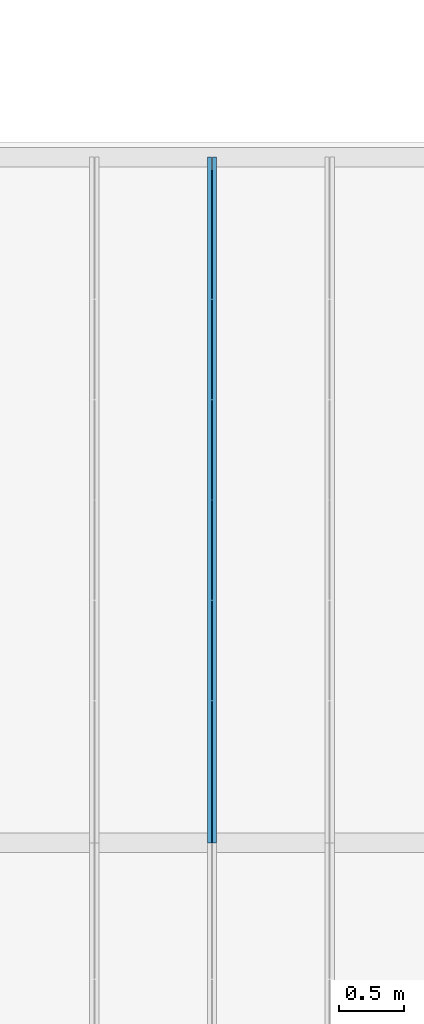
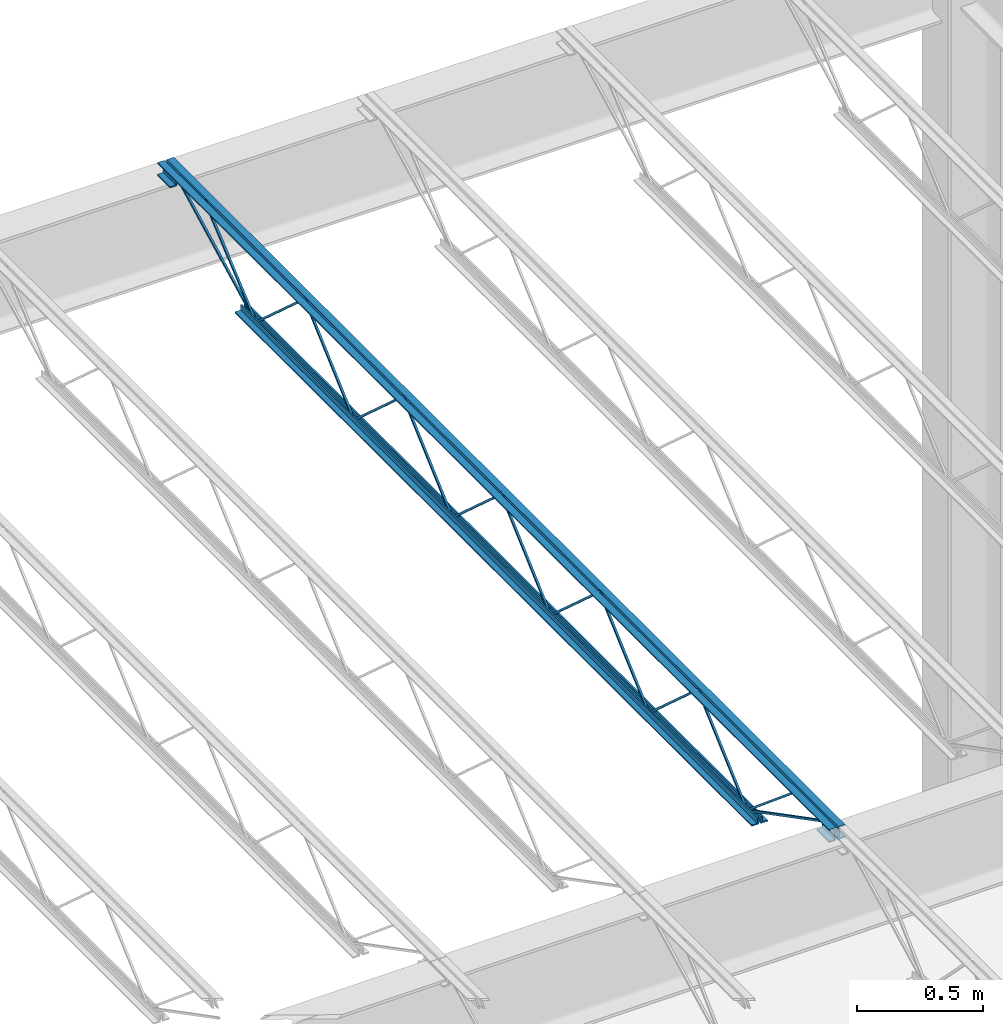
# One storey, part 116 of 119: 1 beam.
"""IFC2X3 building model written with IfcOpenShell, lengths in metres."""

from ifc_helpers import new_model, entity, si_unit, converted_unit, frame, origin, place, context, project, spatial, face_set, surface_model, element, save


model = new_model("IFC2X3")

# Units and contexts
model_context = context("Model", 3, precision=1e-09, world=origin())
plan_context = context("Plan", 3, precision=1e-09, world=origin())
ifc_project = project(units=[si_unit("LENGTHUNIT", "METRE"), si_unit("AREAUNIT", "SQUARE_METRE"), si_unit("VOLUMEUNIT", "CUBIC_METRE"), converted_unit("PLANEANGLEUNIT", "DEGREE", entity("IfcRatioMeasure", 0.01745329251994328), si_unit("PLANEANGLEUNIT", "RADIAN"), dimensions=[0, 0, 0, 0, 0, 0, 0]), si_unit("TIMEUNIT", "SECOND")], contexts=[model_context, plan_context])

# Site, building, storey
site_placement = place(None, origin())
site = spatial("IfcSite", under=ifc_project, at=site_placement, Name="Default", CompositionType="ELEMENT")
building_placement = place(site_placement, origin())
building = spatial("IfcBuilding", under=site, at=building_placement, CompositionType="ELEMENT")
storey_placement = place(building_placement, frame((0.0, 0.0, 4.570000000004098)))
storey = spatial("IfcBuildingStorey", under=building, at=storey_placement, Name="Second Floor", CompositionType="ELEMENT", Elevation=4.570000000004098)

# Beam
beam_placement = place(storey_placement, frame((-3.676750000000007, 44.77999999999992, 4.323999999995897)))
element("IfcBeam", 1, at=beam_placement, inside=storey, Name="M_K-Series Bar Joist-Rod Web:14K1:14K1", ObjectType="M_K-Series Bar Joist-Rod Web:14K1", context=model_context, shape_type="SurfaceModel", body=[
    surface_model("IfcFaceBasedSurfaceModel", [(0.0415000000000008, 3.043599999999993, 0.01110000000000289), (0.03200000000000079, 3.043599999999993, 0.01110000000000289), (0.03200000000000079, 3.043599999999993, 0.001600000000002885), (0.0415000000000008, 3.043599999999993, 0.001600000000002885), (0.03200000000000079, 3.044955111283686, 0.01110000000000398), (0.04150000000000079, 3.044955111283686, 0.01110000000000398), (0.03200000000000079, 3.048594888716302, 0.001600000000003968), (0.0320000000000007, 3.430844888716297, 0.3449000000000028), (0.0320000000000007, 3.433555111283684, 0.3449000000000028), (0.03200000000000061, 3.815805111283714, 0.001600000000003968), (0.03200000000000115, 3.820799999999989, 0.001600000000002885), (0.0320000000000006, 3.820799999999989, 0.01110000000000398), (0.03200000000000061, 3.819444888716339, 0.01110000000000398), (0.03200000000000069, 3.4371948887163, 0.3544000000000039), (0.03200000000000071, 3.427205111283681, 0.3544000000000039), (0.04150000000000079, 3.048594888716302, 0.001600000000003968), (0.04150000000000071, 3.430844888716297, 0.3449000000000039), (0.0415000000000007, 3.433555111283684, 0.3449000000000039), (0.04150000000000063, 3.815805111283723, 0.001600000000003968), (0.04150000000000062, 3.820799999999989, 0.001600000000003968), (0.04150000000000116, 3.820799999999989, 0.01110000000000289), (0.04150000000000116, 3.819444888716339, 0.01110000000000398), (0.0415000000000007, 3.4371948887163, 0.3544000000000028), (0.04150000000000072, 3.427205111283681, 0.3544000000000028), (0.04150000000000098, 2.266399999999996, 0.01110000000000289), (0.03200000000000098, 2.266399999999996, 0.01110000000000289), (0.03200000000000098, 2.266399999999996, 0.001600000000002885), (0.04150000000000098, 2.266399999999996, 0.001600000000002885), (0.03200000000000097, 2.267755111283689, 0.01110000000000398), (0.04150000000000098, 2.267755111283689, 0.01110000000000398), (0.03200000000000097, 2.271394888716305, 0.001600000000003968), (0.03200000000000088, 2.653644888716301, 0.3449000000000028), (0.03200000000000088, 2.656355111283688, 0.3449000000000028), (0.0320000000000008, 3.038605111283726, 0.001600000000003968), (0.03200000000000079, 3.043599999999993, 0.01110000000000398), (0.0320000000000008, 3.042244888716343, 0.01110000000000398), (0.03200000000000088, 2.659994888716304, 0.3544000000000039), (0.0320000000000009, 2.650005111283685, 0.3544000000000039), (0.04150000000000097, 2.271394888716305, 0.001600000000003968), (0.0415000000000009, 2.653644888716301, 0.3449000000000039), (0.04150000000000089, 2.656355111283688, 0.3449000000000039), (0.0415000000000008, 3.038605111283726, 0.001600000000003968), (0.0415000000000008, 3.043599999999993, 0.001600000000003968), (0.0415000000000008, 3.042244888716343, 0.01110000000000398), (0.04150000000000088, 2.659994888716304, 0.3544000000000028), (0.0415000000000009, 2.650005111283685, 0.3544000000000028), (0.04150000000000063, 1.489199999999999, 0.01110000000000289), (0.03200000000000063, 1.489199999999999, 0.01110000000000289), (0.03200000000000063, 1.489199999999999, 0.001600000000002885), (0.04150000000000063, 1.489199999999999, 0.001600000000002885), (0.03200000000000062, 1.490555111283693, 0.01110000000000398), (0.04150000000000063, 1.490555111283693, 0.01110000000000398), (0.03200000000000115, 1.494194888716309, 0.001600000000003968), (0.03200000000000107, 1.876444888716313, 0.3449000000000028), (0.03200000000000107, 1.879155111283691, 0.3449000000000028), (0.03200000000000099, 2.26140511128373, 0.001600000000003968), (0.03200000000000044, 2.266399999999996, 0.01110000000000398), (0.03200000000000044, 2.265044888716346, 0.01110000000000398), (0.03200000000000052, 1.882794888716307, 0.3544000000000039), (0.03200000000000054, 1.872805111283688, 0.3544000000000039), (0.04150000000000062, 1.494194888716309, 0.001600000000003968), (0.04150000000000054, 1.876444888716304, 0.3449000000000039), (0.04150000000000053, 1.879155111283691, 0.3449000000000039), (0.04150000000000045, 2.26140511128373, 0.001600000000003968), (0.04150000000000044, 2.266399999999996, 0.001600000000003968), (0.04150000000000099, 2.265044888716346, 0.01110000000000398), (0.04150000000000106, 1.882794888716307, 0.3544000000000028), (0.04150000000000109, 1.872805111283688, 0.3544000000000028), (0.04149999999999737, 3.82079999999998, 0.01109999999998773), (0.03199999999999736, 3.82079999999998, 0.01109999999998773), (0.03199999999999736, 3.82079999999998, 0.001599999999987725), (0.04149999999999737, 3.82079999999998, 0.001599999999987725), (0.03199999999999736, 3.822155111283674, 0.01109999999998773), (0.04149999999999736, 3.822155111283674, 0.01109999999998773), (0.03199999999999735, 3.82579488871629, 0.001599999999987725), (0.03199999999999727, 4.208044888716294, 0.3448999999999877), (0.03199999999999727, 4.210755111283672, 0.3448999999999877), (0.03199999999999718, 4.593005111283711, 0.001599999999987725), (0.03199999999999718, 4.597999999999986, 0.001599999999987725), (0.03199999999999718, 4.597999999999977, 0.01109999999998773), (0.03199999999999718, 4.596644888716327, 0.01109999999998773), (0.03199999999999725, 4.214394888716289, 0.3543999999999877), (0.03199999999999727, 4.204405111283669, 0.3543999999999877), (0.04149999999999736, 3.82579488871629, 0.001599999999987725), (0.04149999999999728, 4.208044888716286, 0.3448999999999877), (0.04149999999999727, 4.210755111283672, 0.3448999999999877), (0.04149999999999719, 4.593005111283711, 0.001599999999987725), (0.04149999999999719, 4.597999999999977, 0.001599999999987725), (0.04149999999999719, 4.597999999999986, 0.01109999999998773), (0.04149999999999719, 4.596644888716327, 0.01109999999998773), (0.04149999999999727, 4.214394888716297, 0.3543999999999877), (0.04149999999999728, 4.204405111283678, 0.3543999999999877), (0.04150000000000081, 0.7120000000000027, 0.01110000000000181), (0.03200000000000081, 0.7120000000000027, 0.01110000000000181), (0.03200000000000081, 0.7120000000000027, 0.001600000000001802), (0.04150000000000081, 0.7120000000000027, 0.001600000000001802), (0.03200000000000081, 0.7133551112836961, 0.01110000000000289), (0.04150000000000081, 0.7133551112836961, 0.01110000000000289), (0.0320000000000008, 0.7169948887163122, 0.001600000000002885), (0.03200000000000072, 1.099244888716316, 0.3449000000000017), (0.03200000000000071, 1.101955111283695, 0.3449000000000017), (0.03200000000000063, 1.484205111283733, 0.001600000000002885), (0.03200000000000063, 1.489200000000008, 0.001600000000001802), (0.03200000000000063, 1.487844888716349, 0.01110000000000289), (0.03200000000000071, 1.105594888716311, 0.3544000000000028), (0.03200000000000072, 1.095605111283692, 0.3544000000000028), (0.0415000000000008, 0.7169948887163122, 0.001600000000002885), (0.04150000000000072, 1.099244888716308, 0.3449000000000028), (0.04150000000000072, 1.101955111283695, 0.3449000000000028), (0.04150000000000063, 1.484205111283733, 0.001600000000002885), (0.04150000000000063, 1.489200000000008, 0.01110000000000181), (0.04150000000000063, 1.487844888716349, 0.01110000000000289), (0.04150000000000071, 1.105594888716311, 0.3544000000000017), (0.04150000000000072, 1.0956051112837, 0.3544000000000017), (0.03200000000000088, 5.310000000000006, 0.3559999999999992), (0.0, 5.310000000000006, 0.3559999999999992), (0.0, 5.310000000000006, 0.3494999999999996), (0.02550000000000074, 5.310000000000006, 0.3494999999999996), (0.02550000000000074, 5.310000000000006, 0.3239999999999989), (0.03200000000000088, 5.310000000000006, 0.3239999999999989), (0.04150000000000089, 5.310000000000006, 0.3559999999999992), (0.04150000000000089, 5.310000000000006, 0.3239999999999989), (0.04800000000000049, 5.310000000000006, 0.3239999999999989), (0.04800000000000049, 5.310000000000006, 0.3494999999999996), (0.07350000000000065, 5.310000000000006, 0.3494999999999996), (0.07350000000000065, 5.310000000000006, 0.3559999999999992), (0.03200000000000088, 0.0, 0.3559999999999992), (0.0, 0.0, 0.3559999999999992), (0.0, 0.0, 0.3494999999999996), (0.02550000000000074, 0.0, 0.3494999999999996), (0.02550000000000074, 0.0, 0.3239999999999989), (0.03200000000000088, 0.0, 0.3239999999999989), (0.04150000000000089, 0.0, 0.3559999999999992), (0.04150000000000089, 0.0, 0.3239999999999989), (0.04800000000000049, 0.0, 0.3239999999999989), (0.04800000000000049, 0.0, 0.3494999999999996), (0.07350000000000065, 0.0, 0.3494999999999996), (0.07350000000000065, 0.0, 0.3559999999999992), (0.04150000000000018, 0.09999999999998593, 0.2924999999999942), (0.0735000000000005, 0.09999999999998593, 0.2924999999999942), (0.0735000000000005, 0.09999999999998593, 0.2989999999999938), (0.04800000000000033, 0.09999999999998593, 0.2989999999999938), (0.04800000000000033, 0.09999999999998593, 0.3239999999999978), (0.04150000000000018, 0.09999999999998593, 0.3239999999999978), (0.0, 0.09999999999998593, 0.2924999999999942), (0.03200000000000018, 0.09999999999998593, 0.2924999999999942), (0.03200000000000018, 0.09999999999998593, 0.3239999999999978), (0.02550000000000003, 0.09999999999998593, 0.3239999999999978), (0.02550000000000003, 0.09999999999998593, 0.2989999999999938), (0.0, 0.09999999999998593, 0.2989999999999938), (0.04150000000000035, 0.0, 0.2924999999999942), (0.07350000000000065, 0.0, 0.2924999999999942), (0.07350000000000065, 0.0, 0.2989999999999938), (0.04800000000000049, 0.0, 0.2989999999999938), (0.04800000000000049, 0.0, 0.3239999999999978), (0.04150000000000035, 0.0, 0.3239999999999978), (0.0, 0.0, 0.2924999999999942), (0.03200000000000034, 0.0, 0.2924999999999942), (0.03200000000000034, 0.0, 0.3239999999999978), (0.0255000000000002, 0.0, 0.3239999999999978), (0.0255000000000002, 0.0, 0.2989999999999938), (0.0, 0.0, 0.2989999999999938), (0.03200000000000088, 5.310000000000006, 0.2924999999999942), (0.03200000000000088, 5.310000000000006, 0.3239999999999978), (0.02550000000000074, 5.310000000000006, 0.3239999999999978), (0.02550000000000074, 5.310000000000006, 0.2989999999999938), (0.0, 5.310000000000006, 0.2989999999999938), (0.0, 5.310000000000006, 0.2924999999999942), (0.04150000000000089, 5.310000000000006, 0.2924999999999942), (0.07350000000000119, 5.310000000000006, 0.2924999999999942), (0.07350000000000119, 5.310000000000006, 0.2989999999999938), (0.04800000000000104, 5.310000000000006, 0.2989999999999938), (0.04800000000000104, 5.310000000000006, 0.3239999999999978), (0.04150000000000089, 5.310000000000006, 0.3239999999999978), (0.03200000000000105, 5.210000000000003, 0.2924999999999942), (0.03200000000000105, 5.210000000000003, 0.3239999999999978), (0.0255000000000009, 5.210000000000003, 0.3239999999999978), (0.0255000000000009, 5.210000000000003, 0.2989999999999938), (0.0, 5.210000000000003, 0.2989999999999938), (0.0, 5.210000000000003, 0.2924999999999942), (0.04150000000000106, 5.210000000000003, 0.2924999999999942), (0.07350000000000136, 5.210000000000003, 0.2924999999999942), (0.07350000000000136, 5.210000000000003, 0.2989999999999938), (0.0480000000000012, 5.210000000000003, 0.2989999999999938), (0.0480000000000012, 5.210000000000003, 0.3239999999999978), (0.04150000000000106, 5.210000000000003, 0.3239999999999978), (0.0320000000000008, 4.698000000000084, 0.0), (0.0320000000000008, 4.698000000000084, 0.03199999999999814), (0.02550000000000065, 4.698000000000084, 0.03199999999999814), (0.02550000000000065, 4.698000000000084, 0.006499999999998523), (0.0, 4.698000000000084, 0.006499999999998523), (0.0, 4.698000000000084, 0.0), (0.0415000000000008, 4.698000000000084, 0.0), (0.0735000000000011, 4.698000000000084, 0.0), (0.0735000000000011, 4.698000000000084, 0.006499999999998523), (0.04800000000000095, 4.698000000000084, 0.006499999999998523), (0.04800000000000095, 4.698000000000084, 0.03199999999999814), (0.0415000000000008, 4.698000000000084, 0.03199999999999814), (0.03200000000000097, 0.6120000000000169, 0.0), (0.03200000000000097, 0.6120000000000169, 0.03199999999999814), (0.02550000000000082, 0.6120000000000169, 0.03199999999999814), (0.02550000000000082, 0.6120000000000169, 0.006499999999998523), (0.0, 0.6120000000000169, 0.006499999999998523), (0.0, 0.6120000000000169, 0.0), (0.04150000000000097, 0.6120000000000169, 0.0), (0.07350000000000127, 0.6120000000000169, 0.0), (0.07350000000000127, 0.6120000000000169, 0.006499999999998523), (0.04800000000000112, 0.6120000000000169, 0.006499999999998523), (0.04800000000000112, 0.6120000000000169, 0.03199999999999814), (0.04150000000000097, 0.6120000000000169, 0.03199999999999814), (0.04150000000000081, 0.7141882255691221, 0.01056594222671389), (0.0320000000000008, 0.7141882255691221, 0.01056594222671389), (0.03200000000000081, 0.7098117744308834, 0.002134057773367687), (0.04150000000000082, 0.7098117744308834, 0.00213405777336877), (0.04150000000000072, 0.1011592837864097, 0.3287499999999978), (0.04150000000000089, 0.0, 0.3287499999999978), (0.04150000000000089, 0.0, 0.3192499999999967), (0.04150000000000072, 0.09884071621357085, 0.3192499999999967), (0.03200000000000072, 0.09884071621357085, 0.3192499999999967), (0.03200000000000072, 0.1011592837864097, 0.3287499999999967), (0.03200000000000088, 0.0, 0.3287499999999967), (0.03200000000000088, 0.0, 0.3192499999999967), (0.04150000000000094, 0.3034428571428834, 0.3417000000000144), (0.03200000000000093, 0.3034428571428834, 0.3417000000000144), (0.03200000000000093, 0.3034428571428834, 0.3322000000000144), (0.04150000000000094, 0.3034428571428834, 0.3322000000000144), (0.03200000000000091, 0.3178654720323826, 0.3417000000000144), (0.04150000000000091, 0.3178654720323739, 0.3417000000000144), (0.03200000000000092, 0.3144202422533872, 0.3322000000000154), (0.03200000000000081, 0.7089552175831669, 0.002704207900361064), (0.0320000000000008, 0.7150447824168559, 0.009995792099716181), (0.04150000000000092, 0.3144202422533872, 0.3322000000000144), (0.04150000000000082, 0.7089552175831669, 0.002704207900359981), (0.04150000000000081, 0.7150447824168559, 0.009995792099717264), (0.04150000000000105, 5.212188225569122, 0.3197840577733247), (0.04150000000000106, 5.207811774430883, 0.3282159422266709), (0.03200000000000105, 5.207811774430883, 0.3282159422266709), (0.03200000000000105, 5.212188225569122, 0.3197840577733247), (0.04150000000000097, 4.600188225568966, 0.002134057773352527), (0.04150000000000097, 4.595811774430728, 0.01056594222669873), (0.03200000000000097, 4.595811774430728, 0.01056594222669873), (0.03200000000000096, 4.600188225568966, 0.002134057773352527), (0.04150000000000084, 5.004194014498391, 0.3460336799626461), (0.04150000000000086, 4.998034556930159, 0.3532663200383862), (0.03200000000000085, 4.998034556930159, 0.3532663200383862), (0.03200000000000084, 5.004194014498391, 0.3460336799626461), (0.04150000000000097, 4.601079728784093, 0.002733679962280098), (0.04150000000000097, 4.594920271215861, 0.009966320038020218), (0.03200000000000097, 4.594920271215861, 0.009966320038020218), (0.03200000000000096, 4.601079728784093, 0.002733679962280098)], [face_set([[[0, 1, 2, 3]], [[1, 4, 5, 0]], [[2, 6, 7, 8, 9, 10, 11, 12, 13, 14, 4, 1]], [[3, 2, 6, 15]], [[0, 3, 15, 16, 17, 18, 19, 20, 21, 22, 23, 5]], [[4, 5, 23, 14]], [[15, 16, 7, 6]], [[14, 13, 22, 23]], [[16, 7, 8, 17]], [[13, 12, 21, 22]], [[17, 8, 9, 18]], [[20, 11, 10, 19]], [[12, 11, 20, 21]], [[18, 9, 10, 19]]]), face_set([[[24, 25, 26, 27]], [[25, 28, 29, 24]], [[26, 30, 31, 32, 33, 2, 34, 35, 36, 37, 28, 25]], [[27, 26, 30, 38]], [[24, 27, 38, 39, 40, 41, 42, 0, 43, 44, 45, 29]], [[28, 29, 45, 37]], [[38, 39, 31, 30]], [[37, 36, 44, 45]], [[39, 31, 32, 40]], [[36, 35, 43, 44]], [[40, 32, 33, 41]], [[0, 34, 2, 42]], [[35, 34, 0, 43]], [[41, 33, 2, 42]]]), face_set([[[46, 47, 48, 49]], [[47, 50, 51, 46]], [[48, 52, 53, 54, 55, 26, 56, 57, 58, 59, 50, 47]], [[49, 48, 52, 60]], [[46, 49, 60, 61, 62, 63, 64, 24, 65, 66, 67, 51]], [[50, 51, 67, 59]], [[60, 61, 53, 52]], [[59, 58, 66, 67]], [[61, 53, 54, 62]], [[58, 57, 65, 66]], [[62, 54, 55, 63]], [[24, 56, 26, 64]], [[57, 56, 24, 65]], [[63, 55, 26, 64]]]), face_set([[[68, 69, 70, 71]], [[69, 72, 73, 68]], [[70, 74, 75, 76, 77, 78, 79, 80, 81, 82, 72, 69]], [[71, 70, 74, 83]], [[68, 71, 83, 84, 85, 86, 87, 88, 89, 90, 91, 73]], [[72, 73, 91, 82]], [[83, 84, 75, 74]], [[82, 81, 90, 91]], [[84, 75, 76, 85]], [[81, 80, 89, 90]], [[85, 76, 77, 86]], [[88, 79, 78, 87]], [[80, 79, 88, 89]], [[86, 77, 78, 87]]]), face_set([[[92, 93, 94, 95]], [[93, 96, 97, 92]], [[94, 98, 99, 100, 101, 102, 47, 103, 104, 105, 96, 93]], [[95, 94, 98, 106]], [[92, 95, 106, 107, 108, 109, 49, 110, 111, 112, 113, 97]], [[96, 97, 113, 105]], [[106, 107, 99, 98]], [[105, 104, 112, 113]], [[107, 99, 100, 108]], [[104, 103, 111, 112]], [[108, 100, 101, 109]], [[110, 47, 102, 49]], [[103, 47, 110, 111]], [[109, 101, 102, 49]]]), face_set([[[114, 115, 116, 117, 118, 119]], [[120, 121, 122, 123, 124, 125]], [[126, 127, 128, 129, 130, 131]], [[132, 133, 134, 135, 136, 137]], [[119, 114, 126, 131]], [[118, 119, 131, 130]], [[117, 129, 130, 118]], [[116, 117, 129, 128]], [[115, 127, 128, 116]], [[114, 126, 127, 115]], [[125, 137, 132, 120]], [[124, 125, 137, 136]], [[123, 124, 136, 135]], [[122, 123, 135, 134]], [[121, 122, 134, 133]], [[120, 132, 133, 121]]]), face_set([[[138, 139, 140, 141, 142, 143]], [[144, 145, 146, 147, 148, 149]], [[150, 151, 152, 153, 154, 155]], [[156, 157, 158, 159, 160, 161]], [[143, 155, 150, 138]], [[142, 154, 155, 143]], [[141, 142, 154, 153]], [[140, 152, 153, 141]], [[139, 140, 152, 151]], [[138, 139, 151, 150]], [[149, 161, 156, 144]], [[148, 160, 161, 149]], [[147, 159, 160, 148]], [[146, 158, 159, 147]], [[145, 146, 158, 157]], [[144, 145, 157, 156]]]), face_set([[[162, 163, 164, 165, 166, 167]], [[168, 169, 170, 171, 172, 173]], [[174, 175, 176, 177, 178, 179]], [[180, 181, 182, 183, 184, 185]], [[167, 162, 174, 179]], [[166, 178, 179, 167]], [[165, 177, 178, 166]], [[164, 176, 177, 165]], [[163, 175, 176, 164]], [[162, 163, 175, 174]], [[173, 185, 180, 168]], [[172, 184, 185, 173]], [[171, 172, 184, 183]], [[170, 182, 183, 171]], [[169, 170, 182, 181]], [[168, 169, 181, 180]]]), face_set([[[186, 187, 188, 189, 190, 191]], [[192, 193, 194, 195, 196, 197]], [[198, 199, 200, 201, 202, 203]], [[204, 205, 206, 207, 208, 209]], [[191, 186, 198, 203]], [[190, 202, 203, 191]], [[189, 201, 202, 190]], [[188, 200, 201, 189]], [[187, 199, 200, 188]], [[186, 187, 199, 198]], [[197, 209, 204, 192]], [[196, 208, 209, 197]], [[195, 196, 208, 207]], [[194, 206, 207, 195]], [[193, 194, 206, 205]], [[192, 193, 205, 204]]]), face_set([[[210, 211, 212, 213]], [[213, 210, 214, 215, 216, 217]], [[212, 213, 217, 218]], [[211, 219, 220, 221, 218, 212]], [[210, 214, 219, 211]], [[215, 220, 221, 216]], [[218, 217, 216, 221]], [[214, 215, 220, 219]]]), face_set([[[222, 223, 224, 225]], [[223, 226, 227, 222]], [[224, 228, 229, 230, 226, 223]], [[225, 224, 228, 231]], [[222, 225, 231, 232, 233, 227]], [[233, 230, 229, 232]], [[226, 230, 233, 227]], [[231, 228, 229, 232]]]), face_set([[[234, 235, 236, 237]], [[238, 239, 240, 241]], [[237, 241, 238, 234]], [[236, 240, 241, 237]], [[235, 236, 240, 239]], [[234, 235, 239, 238]]]), face_set([[[242, 243, 244, 245]], [[246, 247, 248, 249]], [[245, 249, 246, 242]], [[244, 248, 249, 245]], [[243, 244, 248, 247]], [[242, 243, 247, 246]]])]),
])

save(model, "model.ifc")
